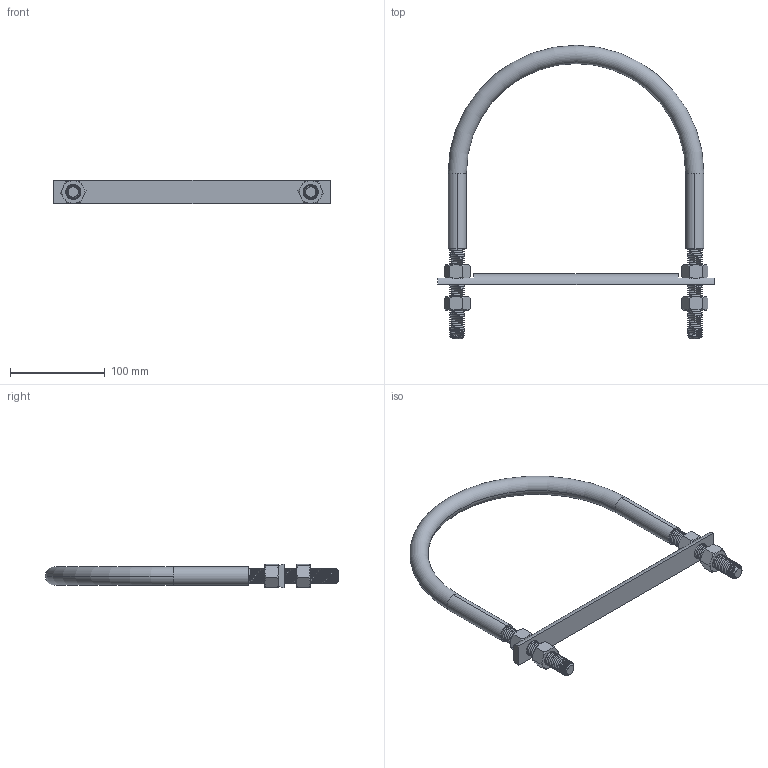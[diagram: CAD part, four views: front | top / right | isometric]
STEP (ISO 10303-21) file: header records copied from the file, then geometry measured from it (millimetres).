
FILE_DESCRIPTION (( 'STEP AP214' ), '1' );
FILE_NAME ('NUB1470.STEP', '2022-04-04T17:14:01', ( '' ), ( '' ), 'SwSTEP 2.0', 'SolidWorks 2021', '' );
FILE_SCHEMA (( 'AUTOMOTIVE_DESIGN' ));
Length unit declared in the file: inch
Products named in the file (4): FAS0047; ROD0644_IR17-8 [ROD0644]; NUB1470; UBT0997_UBT17-8-0.625-11 XL [NUB1470]
Assembly tree (6 placements, depth 2):
  NUB1470
    FAS0047  x4
    UBT0997_UBT17-8-0.625-11 XL [NUB1470]
    ROD0644_IR17-8 [ROD0644]
Bounding box: 292.1 x 309.66 x 25.27 mm (x, y, z)
Volume: 217355.1 mm3; surface area: 133851.9 mm2
Topology: 7 solids, 7 shells, 324 faces, 858 edges, 548 vertices
Faces by surface type: cylinder 193, cone 76, plane 45, torus 6, bspline 4
Entity records: 19509 total; most frequent: CARTESIAN_POINT 14045, ORIENTED_EDGE 1320, DIRECTION 860, EDGE_CURVE 660, VERTEX_POINT 434, AXIS2_PLACEMENT_3D 323, EDGE_LOOP 242, ADVANCED_FACE 234
